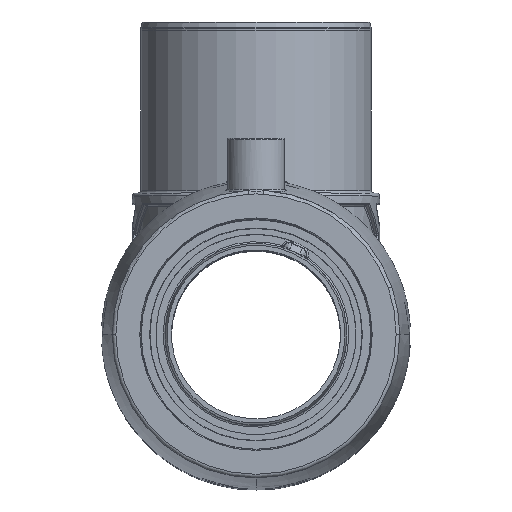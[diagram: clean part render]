
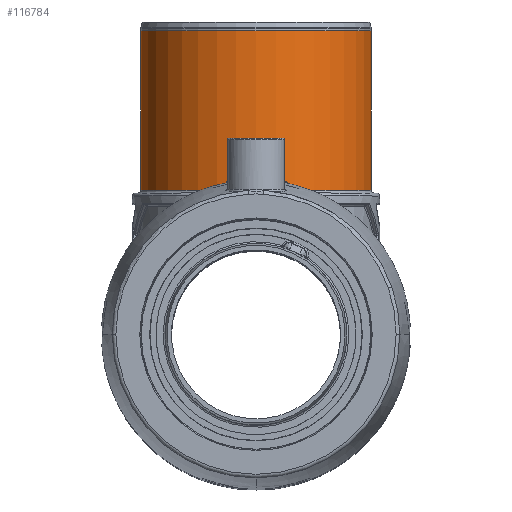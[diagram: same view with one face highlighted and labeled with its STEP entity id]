
A CAD part, top view. The second image highlights one B-rep face of the part: STEP entity #116784.
In plain terms, the highlighted cylindrical face has radius 31.7 mm (diameter 63.4 mm), a partial arc.
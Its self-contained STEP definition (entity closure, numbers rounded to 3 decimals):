
#30425 = AXIS2_PLACEMENT_3D ( 'NONE', #45287, #45288, #45290 ) ;
#37883 = CIRCLE ( 'NONE', #30425, 31.7 ) ;
#37903 = LINE ( 'NONE', #45410, #37905 ) ;
#37905 = VECTOR ( 'NONE', #45389, 1000. ) ;
#37906 = LINE ( 'NONE', #45381, #37908 ) ;
#37908 = VECTOR ( 'NONE', #45408, 1000. ) ;
#44765 = CIRCLE ( 'NONE', #167034, 31.7 ) ;
#45287 = CARTESIAN_POINT ( 'NONE',  ( -10.211, 10.443, 7.668 ) ) ;
#45288 = DIRECTION ( 'NONE',  ( 0., 1., 0. ) ) ;
#45290 = DIRECTION ( 'NONE',  ( 1., 0., 0. ) ) ;
#45381 = CARTESIAN_POINT ( 'NONE',  ( -41.911, 56.643, 7.668 ) ) ;
#45389 = DIRECTION ( 'NONE',  ( 0., -1., 0. ) ) ;
#45408 = DIRECTION ( 'NONE',  ( 0., -1., 0. ) ) ;
#45410 = CARTESIAN_POINT ( 'NONE',  ( 21.489, 56.643, 7.668 ) ) ;
#67859 = CARTESIAN_POINT ( 'NONE',  ( -41.911, 54.294, 7.668 ) ) ;
#68257 = CARTESIAN_POINT ( 'NONE',  ( -41.911, 10.443, 7.668 ) ) ;
#68821 = CARTESIAN_POINT ( 'NONE',  ( 21.489, 54.294, 7.668 ) ) ;
#69853 = CARTESIAN_POINT ( 'NONE',  ( 21.489, 10.443, 7.668 ) ) ;
#73273 = CARTESIAN_POINT ( 'NONE',  ( -10.211, 54.294, 7.668 ) ) ;
#73274 = DIRECTION ( 'NONE',  ( 0., -1., 0. ) ) ;
#73275 = DIRECTION ( 'NONE',  ( 1., 0., 0. ) ) ;
#98204 = EDGE_CURVE ( 'NONE', #101159, #102146, #37883, .T. ) ;
#98267 = EDGE_CURVE ( 'NONE', #101359, #102146, #37903, .T. ) ;
#98273 = EDGE_CURVE ( 'NONE', #101044, #101159, #37906, .T. ) ;
#101044 = VERTEX_POINT ( 'NONE', #67859 ) ;
#101159 = VERTEX_POINT ( 'NONE', #68257 ) ;
#101359 = VERTEX_POINT ( 'NONE', #68821 ) ;
#102146 = VERTEX_POINT ( 'NONE', #69853 ) ;
#116784 = ADVANCED_FACE ( 'NONE', ( #143437 ), #143443, .T. ) ;
#118571 = EDGE_LOOP ( 'NONE', ( #160567, #160568, #160569, #160570 ) ) ;
#126928 = AXIS2_PLACEMENT_3D ( 'NONE', #152729, #152724, #152726 ) ;
#143437 = FACE_OUTER_BOUND ( 'NONE', #118571, .T. ) ;
#143443 = CYLINDRICAL_SURFACE ( 'NONE', #126928, 31.7 ) ;
#152724 = DIRECTION ( 'NONE',  ( 0., -1., 0. ) ) ;
#152726 = DIRECTION ( 'NONE',  ( -1., 0., 0. ) ) ;
#152729 = CARTESIAN_POINT ( 'NONE',  ( -10.211, 56.643, 7.668 ) ) ;
#156997 = EDGE_CURVE ( 'NONE', #101359, #101044, #44765, .T. ) ;
#160567 = ORIENTED_EDGE ( 'NONE', *, *, #98267, .F. ) ;
#160568 = ORIENTED_EDGE ( 'NONE', *, *, #156997, .T. ) ;
#160569 = ORIENTED_EDGE ( 'NONE', *, *, #98273, .T. ) ;
#160570 = ORIENTED_EDGE ( 'NONE', *, *, #98204, .T. ) ;
#167034 = AXIS2_PLACEMENT_3D ( 'NONE', #73273, #73274, #73275 ) ;
